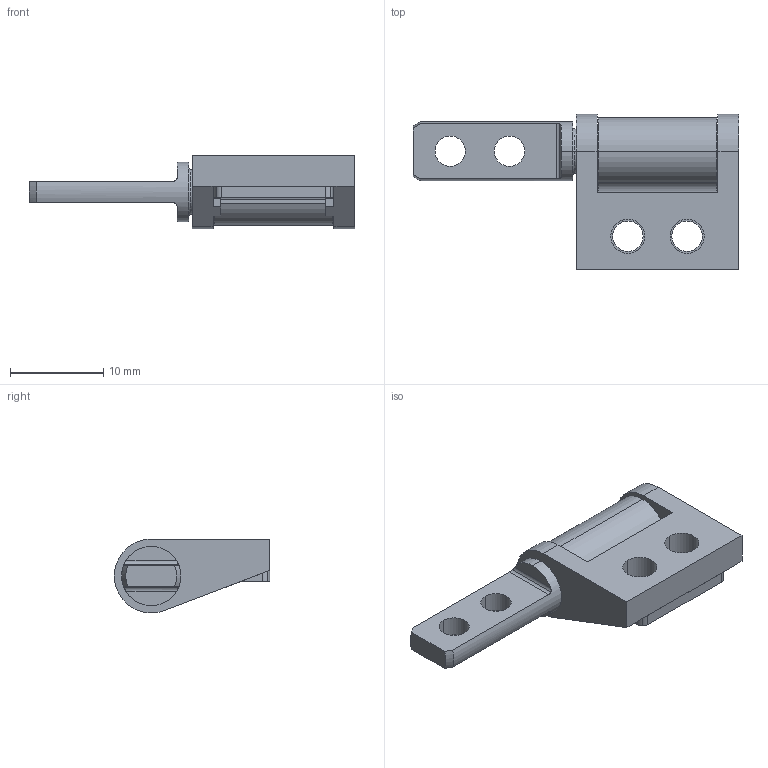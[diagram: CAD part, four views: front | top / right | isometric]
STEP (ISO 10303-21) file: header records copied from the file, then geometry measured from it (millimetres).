
FILE_DESCRIPTION(('STEP AP214'),'1');
FILE_NAME('C:/Users/HAN/Desktop/1000-0401-HNG R Rev 0_0.stp','2012-12-04T03:52:18',(' '),(' '),'Spatial InterOp 3D',' ',' ');
FILE_SCHEMA(('automotive_design'));
Length unit declared in the file: inch
Products named in the file (3): 1000-0001-HOU Rev 0_0; 1000-0001-BND Rev 0_0; 1000-0001-SHA Rev 0_0
Bounding box: 34.92 x 16.66 x 7.92 mm (x, y, z)
Volume: 1581.4 mm3; surface area: 2256.4 mm2
Topology: 3 solids, 3 shells, 77 faces, 204 edges, 134 vertices
Faces by surface type: cylinder 40, plane 31, cone 4, torus 2
Entity records: 3200 total; most frequent: CARTESIAN_POINT 538, DIRECTION 436, ORIENTED_EDGE 408, EDGE_CURVE 204, AXIS2_PLACEMENT_3D 164, VERTEX_POINT 134, LINE 108, VECTOR 108
